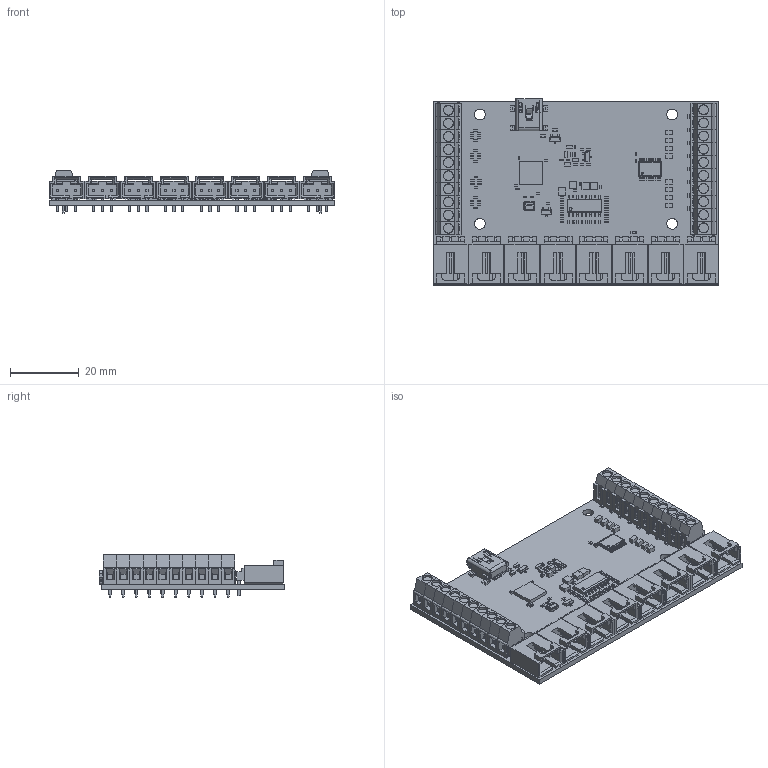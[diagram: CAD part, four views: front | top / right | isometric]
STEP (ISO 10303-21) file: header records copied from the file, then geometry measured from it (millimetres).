
FILE_DESCRIPTION(('Open CASCADE Model'),'2;1');
FILE_NAME('Open CASCADE Shape Model','2021-02-05T10:10:58',('Author'),( 'Open CASCADE'),'Open CASCADE STEP processor 6.8','Open CASCADE 6.8' ,'Unknown');
FILE_SCHEMA(('AUTOMOTIVE_DESIGN { 1 0 10303 214 1 1 1 1 }'));
Length unit declared in the file: millimetre
Products named in the file (164): PCB; Board; U10; User_Library-SOT-23-1; User_Library-SOT-23-1_1_1; User_Library-SOT-23-1_2_1; User_Library-SOT-23-1_3_1; User_Library-SOT-23-1_4_1; User_Library-SOT-23-1_5_1; C34; 5178809152; Extruded; 5178808960; U3; R6; 5178808768; 5178808576; R5; R4; 5178808384; 5178808192; R3; R2; R1; Q2; 5178807808; Q1; 5178807616; D1; 5178808000; C15; C14; C13; C12; R47; D10; C36; C6; U9; 5178807232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
Assembly tree (349 placements, depth 4):
  PCB
    Board
    U10
      User_Library-SOT-23-1
        User_Library-SOT-23-1_1_1
        User_Library-SOT-23-1_2_1
        User_Library-SOT-23-1_3_1
        User_Library-SOT-23-1_4_1
        User_Library-SOT-23-1_5_1
    C34
      5178809152
        Extruded
      5178808960
        Extruded
    U3
      User_Library-SOT-23-1
        User_Library-SOT-23-1_1_1
        User_Library-SOT-23-1_2_1
        User_Library-SOT-23-1_3_1
        User_Library-SOT-23-1_4_1
        User_Library-SOT-23-1_5_1
    R6
      5178808768
        Extruded
      5178808576
        Extruded
    R5
      5178808768
        Extruded
      5178808576
        Extruded
    R4
      5178808384
        Extruded
      5178808192
        Extruded
    R3
      5178808384
        Extruded
      5178808192
        Extruded
    R2
      5178808768
        Extruded
      5178808576
        Extruded
    R1
      5178808768
        Extruded
      5178808576
        Extruded
    Q2
      5178807808
        Extruded
    Q1
      5178807616
        Extruded
    D1
      5178808000
        Extruded
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Bounding box: 83.06 x 54.03 x 12.31 mm (x, y, z)
Volume: 14324.5 mm3; surface area: 24239 mm2
Topology: 254 solids, 254 shells, 5575 faces, 14122 edges, 9164 vertices
Faces by surface type: plane 4577, cylinder 835, bspline 117, cone 40, torus 4, sphere 2
Full cylindrical faces by diameter (mm): 0.965 x24, 1 x2, 1.321 x20, 3.175 x4
Entity records: 57463 total; most frequent: CARTESIAN_POINT 13100, ORIENTED_EDGE 7604, DIRECTION 7333, EDGE_CURVE 3802, LINE 2753, VECTOR 2753, VERTEX_POINT 2432, AXIS2_PLACEMENT_3D 2290
